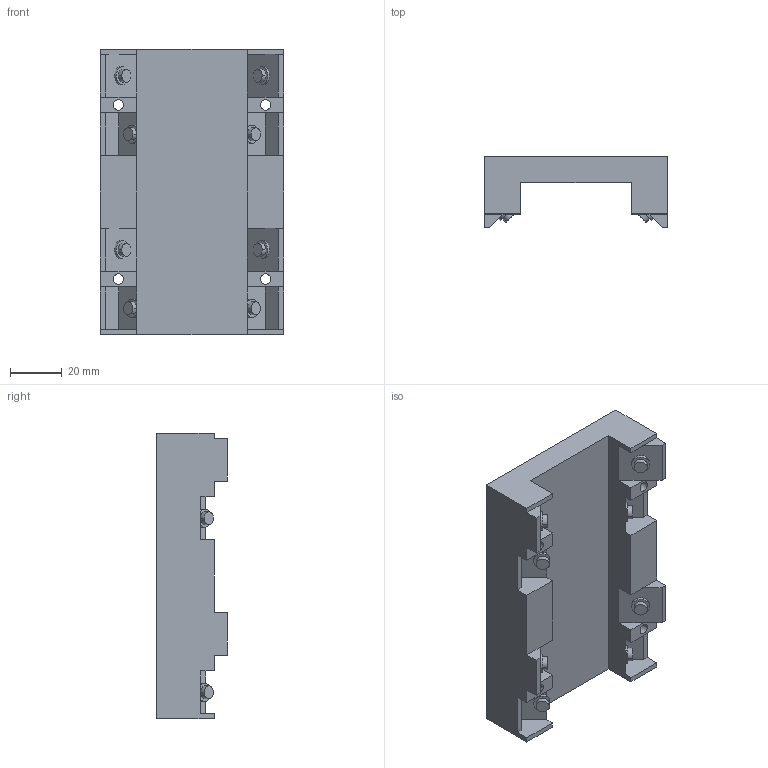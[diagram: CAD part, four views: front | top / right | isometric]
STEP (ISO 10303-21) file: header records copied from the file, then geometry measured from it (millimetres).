
FILE_DESCRIPTION (( 'STEP AP214' ), '1' );
FILE_NAME ('refernce fro gantry connection.STEP', '2026-04-15T07:17:58', ( '' ), ( '' ), 'SwSTEP 2.0', 'SolidWorks 2026', '' );
FILE_SCHEMA (( 'AUTOMOTIVE_DESIGN' ));
Length unit declared in the file: millimetre
Products named in the file (1): refernce fro gantry connection
Bounding box: 70.61 x 27.29 x 110 mm (x, y, z)
Volume: 108434.5 mm3; surface area: 27773 mm2
Topology: 1 solids, 1 shells, 118 faces, 308 edges, 200 vertices
Faces by surface type: plane 78, cylinder 40
Entity records: 3643 total; most frequent: CARTESIAN_POINT 651, DIRECTION 618, ORIENTED_EDGE 616, EDGE_CURVE 308, LINE 220, VECTOR 220, VERTEX_POINT 200, AXIS2_PLACEMENT_3D 199
